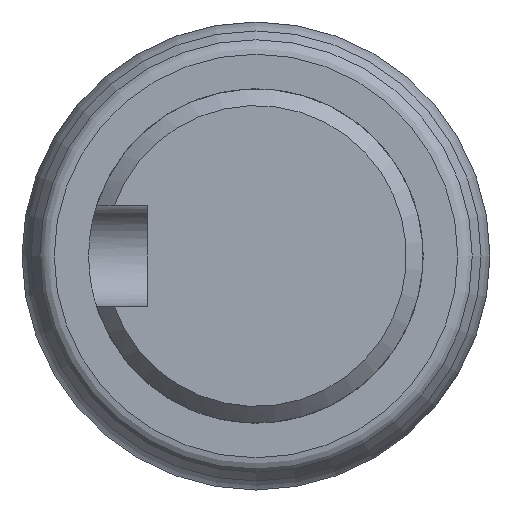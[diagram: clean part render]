
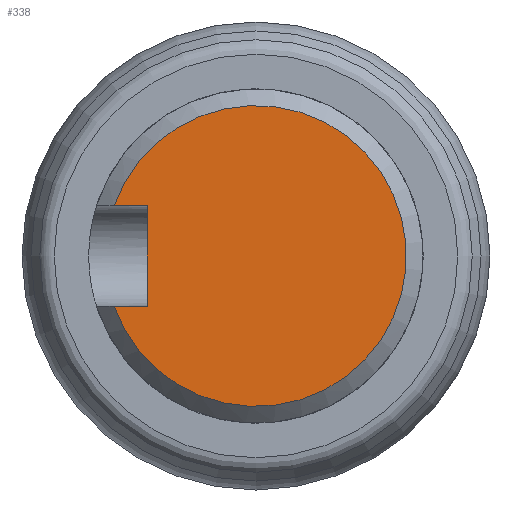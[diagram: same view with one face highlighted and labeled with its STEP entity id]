
A CAD part, left-side view. The second image highlights one B-rep face of the part: STEP entity #338.
In plain terms, the highlighted planar face has unit normal (-1, 0, 0).
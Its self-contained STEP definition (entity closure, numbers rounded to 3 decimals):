
#15=LINE($,#569,#24);
#22=LINE($,#587,#31);
#23=LINE($,#612,#32);
#24=VECTOR($,#470,1.985);
#31=VECTOR($,#479,1.985);
#32=VECTOR($,#486,6.);
#46=PLANE($,#387);
#96=FACE_OUTER_BOUND($,#139,.T.);
#139=EDGE_LOOP($,(#291,#292,#293,#294));
#169=CIRCLE($,#388,9.);
#191=VERTEX_POINT($,#563);
#193=VERTEX_POINT($,#568);
#197=VERTEX_POINT($,#577);
#200=VERTEX_POINT($,#585);
#223=EDGE_CURVE($,#193,#191,#15,.T.);
#231=EDGE_CURVE($,#197,#200,#22,.T.);
#235=EDGE_CURVE($,#200,#193,#23,.T.);
#236=EDGE_CURVE($,#197,#191,#169,.T.);
#291=ORIENTED_EDGE($,*,*,#231,.T.);
#292=ORIENTED_EDGE($,*,*,#235,.T.);
#293=ORIENTED_EDGE($,*,*,#223,.T.);
#294=ORIENTED_EDGE($,*,*,#236,.F.);
#338=ADVANCED_FACE($,(#96),#46,.T.);
#387=AXIS2_PLACEMENT_3D($,#613,#487,#488);
#388=AXIS2_PLACEMENT_3D($,#614,#489,#490);
#470=DIRECTION($,(0.,1.,0.));
#479=DIRECTION($,(0.,-1.,0.));
#486=DIRECTION($,(0.,0.,-1.));
#487=DIRECTION('center_axis',(-1.,0.,0.));
#488=DIRECTION('ref_axis',(0.,0.,1.));
#489=DIRECTION('center_axis',(1.,0.,0.));
#490=DIRECTION('ref_axis',(0.,-1.,0.));
#563=CARTESIAN_POINT('',(-52.,8.485,-3.));
#568=CARTESIAN_POINT('',(-52.,6.5,-3.));
#569=CARTESIAN_POINT($,(-52.,10.,-3.));
#577=CARTESIAN_POINT('',(-52.,8.485,3.));
#585=CARTESIAN_POINT('',(-52.,6.5,3.));
#587=CARTESIAN_POINT($,(-52.,10.,3.));
#612=CARTESIAN_POINT($,(-52.,6.5,0.));
#613=CARTESIAN_POINT('Origin',(-52.,10.,0.));
#614=CARTESIAN_POINT('Origin',(-52.,0.,0.));
